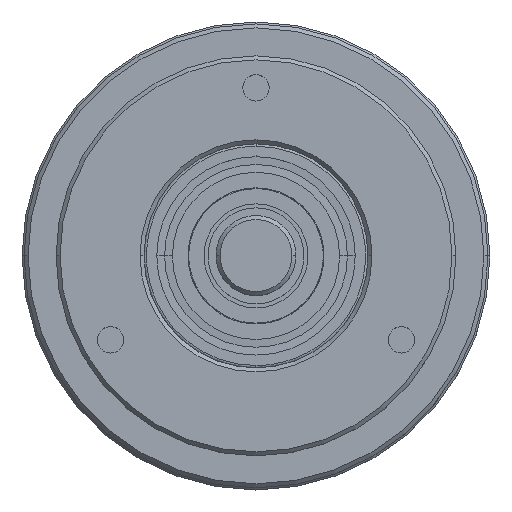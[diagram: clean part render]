
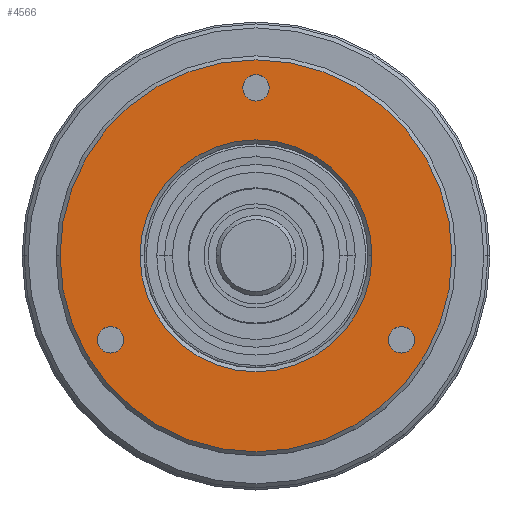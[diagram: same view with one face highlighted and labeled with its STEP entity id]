
A CAD part, top view. The second image highlights one B-rep face of the part: STEP entity #4566.
In plain terms, the highlighted planar face has unit normal (0, 0, 1).
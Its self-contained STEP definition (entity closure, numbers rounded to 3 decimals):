
#71 = VERTEX_POINT ( 'NONE', #6307 ) ;
#157 = DIRECTION ( 'NONE',  ( 0., 0., 1. ) ) ;
#216 = CARTESIAN_POINT ( 'NONE',  ( -18.187, -10.5, -32.783 ) ) ;
#244 = VERTEX_POINT ( 'NONE', #6687 ) ;
#276 = CARTESIAN_POINT ( 'NONE',  ( 0., 21., -32.783 ) ) ;
#353 = EDGE_CURVE ( 'NONE', #8185, #244, #7666, .T. ) ;
#485 = DIRECTION ( 'NONE',  ( 1., 0., 0. ) ) ;
#554 = ORIENTED_EDGE ( 'NONE', *, *, #6216, .T. ) ;
#604 = FACE_OUTER_BOUND ( 'NONE', #3621, .T. ) ;
#674 = AXIS2_PLACEMENT_3D ( 'NONE', #276, #6847, #4331 ) ;
#736 = CARTESIAN_POINT ( 'NONE',  ( -19.837, -10.5, -32.783 ) ) ;
#764 = CARTESIAN_POINT ( 'NONE',  ( -24.5, 0., -32.783 ) ) ;
#768 = ORIENTED_EDGE ( 'NONE', *, *, #7861, .T. ) ;
#829 = DIRECTION ( 'NONE',  ( 1., 0., 0. ) ) ;
#964 = VERTEX_POINT ( 'NONE', #3956 ) ;
#1133 = CARTESIAN_POINT ( 'NONE',  ( 24.5, 0., -32.783 ) ) ;
#1152 = CARTESIAN_POINT ( 'NONE',  ( 0., 21., -32.783 ) ) ;
#1321 = ORIENTED_EDGE ( 'NONE', *, *, #4944, .F. ) ;
#1363 = DIRECTION ( 'NONE',  ( -1., 0., 0. ) ) ;
#1438 = ORIENTED_EDGE ( 'NONE', *, *, #1823, .F. ) ;
#1543 = CARTESIAN_POINT ( 'NONE',  ( 0., 0., -32.783 ) ) ;
#1615 = VERTEX_POINT ( 'NONE', #5167 ) ;
#1734 = CIRCLE ( 'NONE', #2677, 1.65 ) ;
#1737 = CARTESIAN_POINT ( 'NONE',  ( -18.187, -10.5, -32.783 ) ) ;
#1791 = AXIS2_PLACEMENT_3D ( 'NONE', #1543, #3688, #4958 ) ;
#1794 = CARTESIAN_POINT ( 'NONE',  ( 16.537, -10.5, -32.783 ) ) ;
#1823 = EDGE_CURVE ( 'NONE', #7668, #7510, #2095, .T. ) ;
#1868 = AXIS2_PLACEMENT_3D ( 'NONE', #3614, #3739, #829 ) ;
#2095 = CIRCLE ( 'NONE', #674, 1.65 ) ;
#2210 = VERTEX_POINT ( 'NONE', #736 ) ;
#2453 = VERTEX_POINT ( 'NONE', #764 ) ;
#2558 = AXIS2_PLACEMENT_3D ( 'NONE', #7107, #3024, #8446 ) ;
#2582 = ORIENTED_EDGE ( 'NONE', *, *, #6972, .F. ) ;
#2612 = FACE_BOUND ( 'NONE', #8606, .T. ) ;
#2677 = AXIS2_PLACEMENT_3D ( 'NONE', #216, #7231, #4389 ) ;
#2921 = CIRCLE ( 'NONE', #1791, 14.5 ) ;
#3024 = DIRECTION ( 'NONE',  ( 0., 0., -1. ) ) ;
#3032 = CARTESIAN_POINT ( 'NONE',  ( -1.65, 21., -32.783 ) ) ;
#3138 = EDGE_CURVE ( 'NONE', #244, #8185, #5709, .T. ) ;
#3176 = EDGE_LOOP ( 'NONE', ( #2582, #1438 ) ) ;
#3340 = CIRCLE ( 'NONE', #5865, 24.5 ) ;
#3456 = FACE_BOUND ( 'NONE', #4185, .T. ) ;
#3614 = CARTESIAN_POINT ( 'NONE',  ( 18.187, -10.5, -32.783 ) ) ;
#3621 = EDGE_LOOP ( 'NONE', ( #6065, #554 ) ) ;
#3688 = DIRECTION ( 'NONE',  ( 0., 0., -1. ) ) ;
#3739 = DIRECTION ( 'NONE',  ( 0., 0., 1. ) ) ;
#3825 = AXIS2_PLACEMENT_3D ( 'NONE', #5802, #6795, #6948 ) ;
#3861 = DIRECTION ( 'NONE',  ( 1., 0., 0. ) ) ;
#3956 = CARTESIAN_POINT ( 'NONE',  ( -14.5, 0., -32.783 ) ) ;
#4039 = DIRECTION ( 'NONE',  ( 0., 0., 1. ) ) ;
#4040 = ORIENTED_EDGE ( 'NONE', *, *, #353, .F. ) ;
#4185 = EDGE_LOOP ( 'NONE', ( #1321, #7699 ) ) ;
#4331 = DIRECTION ( 'NONE',  ( 1., 0., 0. ) ) ;
#4389 = DIRECTION ( 'NONE',  ( 1., 0., 0. ) ) ;
#4485 = VERTEX_POINT ( 'NONE', #1133 ) ;
#4566 = ADVANCED_FACE ( 'NONE', ( #2612, #604, #3456, #7407, #7819 ), #5627, .F. ) ;
#4944 = EDGE_CURVE ( 'NONE', #1615, #2210, #1734, .T. ) ;
#4958 = DIRECTION ( 'NONE',  ( -1., 0., 0. ) ) ;
#5109 = EDGE_CURVE ( 'NONE', #2453, #4485, #3340, .T. ) ;
#5167 = CARTESIAN_POINT ( 'NONE',  ( -16.537, -10.5, -32.783 ) ) ;
#5212 = DIRECTION ( 'NONE',  ( 0., 0., 1. ) ) ;
#5592 = EDGE_CURVE ( 'NONE', #964, #71, #6289, .T. ) ;
#5627 = PLANE ( 'NONE',  #7509 ) ;
#5709 = CIRCLE ( 'NONE', #3825, 1.65 ) ;
#5710 = CIRCLE ( 'NONE', #6541, 1.65 ) ;
#5767 = CARTESIAN_POINT ( 'NONE',  ( 1.65, 21., -32.783 ) ) ;
#5802 = CARTESIAN_POINT ( 'NONE',  ( 18.187, -10.5, -32.783 ) ) ;
#5815 = DIRECTION ( 'NONE',  ( 0., 0., 1. ) ) ;
#5865 = AXIS2_PLACEMENT_3D ( 'NONE', #8335, #157, #8046 ) ;
#6045 = EDGE_CURVE ( 'NONE', #2210, #1615, #8084, .T. ) ;
#6058 = CARTESIAN_POINT ( 'NONE',  ( 0., 14., -32.783 ) ) ;
#6065 = ORIENTED_EDGE ( 'NONE', *, *, #5109, .T. ) ;
#6216 = EDGE_CURVE ( 'NONE', #4485, #2453, #8192, .T. ) ;
#6289 = CIRCLE ( 'NONE', #2558, 14.5 ) ;
#6307 = CARTESIAN_POINT ( 'NONE',  ( 14.5, 0., -32.783 ) ) ;
#6541 = AXIS2_PLACEMENT_3D ( 'NONE', #1152, #5212, #485 ) ;
#6687 = CARTESIAN_POINT ( 'NONE',  ( 19.837, -10.5, -32.783 ) ) ;
#6795 = DIRECTION ( 'NONE',  ( 0., 0., 1. ) ) ;
#6840 = EDGE_LOOP ( 'NONE', ( #7748, #4040 ) ) ;
#6847 = DIRECTION ( 'NONE',  ( 0., 0., 1. ) ) ;
#6948 = DIRECTION ( 'NONE',  ( 1., 0., 0. ) ) ;
#6972 = EDGE_CURVE ( 'NONE', #7510, #7668, #5710, .T. ) ;
#7107 = CARTESIAN_POINT ( 'NONE',  ( 0., 0., -32.783 ) ) ;
#7231 = DIRECTION ( 'NONE',  ( 0., 0., 1. ) ) ;
#7407 = FACE_BOUND ( 'NONE', #6840, .T. ) ;
#7435 = CARTESIAN_POINT ( 'NONE',  ( 0., 0., -32.783 ) ) ;
#7509 = AXIS2_PLACEMENT_3D ( 'NONE', #6058, #8503, #1363 ) ;
#7510 = VERTEX_POINT ( 'NONE', #5767 ) ;
#7666 = CIRCLE ( 'NONE', #1868, 1.65 ) ;
#7668 = VERTEX_POINT ( 'NONE', #3032 ) ;
#7699 = ORIENTED_EDGE ( 'NONE', *, *, #6045, .F. ) ;
#7723 = AXIS2_PLACEMENT_3D ( 'NONE', #1737, #5815, #3861 ) ;
#7748 = ORIENTED_EDGE ( 'NONE', *, *, #3138, .F. ) ;
#7819 = FACE_BOUND ( 'NONE', #3176, .T. ) ;
#7861 = EDGE_CURVE ( 'NONE', #71, #964, #2921, .T. ) ;
#8046 = DIRECTION ( 'NONE',  ( -1., 0., 0. ) ) ;
#8084 = CIRCLE ( 'NONE', #7723, 1.65 ) ;
#8109 = DIRECTION ( 'NONE',  ( -1., 0., 0. ) ) ;
#8185 = VERTEX_POINT ( 'NONE', #1794 ) ;
#8192 = CIRCLE ( 'NONE', #8277, 24.5 ) ;
#8277 = AXIS2_PLACEMENT_3D ( 'NONE', #7435, #4039, #8109 ) ;
#8335 = CARTESIAN_POINT ( 'NONE',  ( 0., 0., -32.783 ) ) ;
#8446 = DIRECTION ( 'NONE',  ( -1., 0., 0. ) ) ;
#8503 = DIRECTION ( 'NONE',  ( 0., 0., -1. ) ) ;
#8606 = EDGE_LOOP ( 'NONE', ( #768, #8748 ) ) ;
#8748 = ORIENTED_EDGE ( 'NONE', *, *, #5592, .T. ) ;
